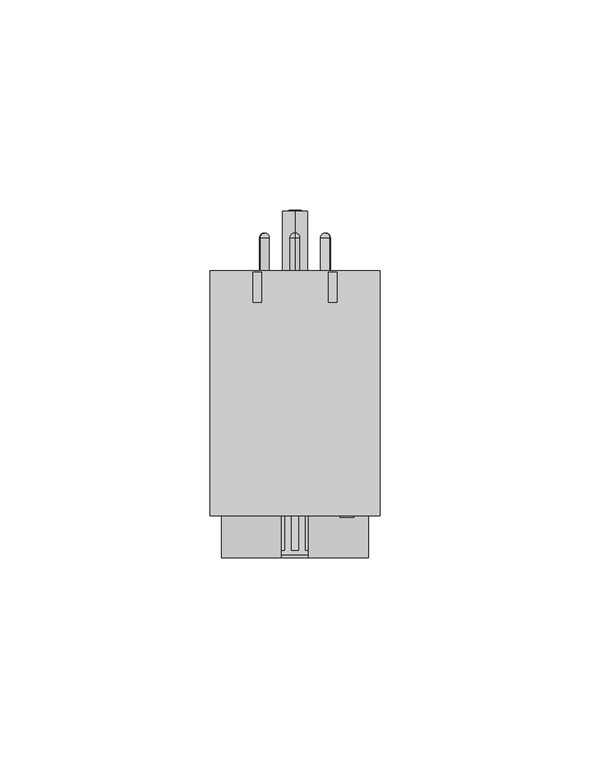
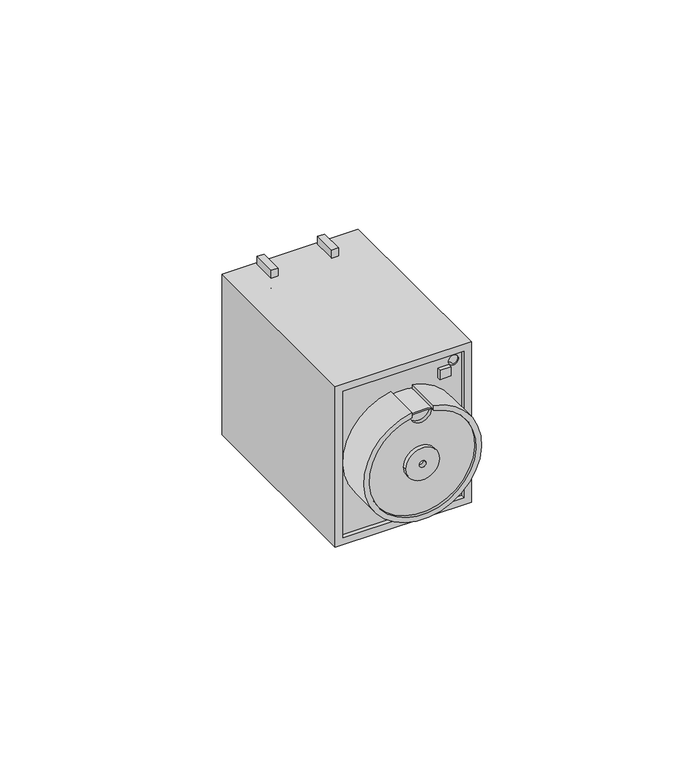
"""IFC4 building model written with IfcOpenShell, lengths in millimetres: proxy geometry, TDM_РЕЛЕ ВРЕМЕНИ ЦОКОЛЬНЫЙ СЕРИИ РВ1-РВ2-РВ3 : РВ2D-10 сек/60 мин -5 А-220 В-8Ц."""

from ifc_helpers import new_model, si_unit, point, frame, frame_2d, origin, origin_2d, place, context, project, spatial, polyline, circle_curve, ellipse_curve, trimmed, segment, composite_curve, outline, extrude, source, transform, mapped, element, save
from ifc_brep_helpers import plane_surface, cylinder_surface, revolved_surface, advanced_brep


def electrical_equipment_3ce51de6(model_context):
    return source(origin(), model_context, "Body", "SolidModel", [
        advanced_brep(
        [(18.0, -28.0, 23.0), (-18.0, -28.0, 23.0), (-18.0, -28.0, -23.0), (18.0, -28.0, -23.0), (17.1390456, -28.0, 20.3251327), (14.1390456, -28.0, 20.3251327), (17.1390456, -28.0, -20.3251327), (14.1390456, -28.0, -20.3251327), (18.0, 29.0, 23.0), (18.0, 29.0, -23.0), (-18.0, 29.0, -23.0), (-18.0, 29.0, 23.0), (17.1390456, 29.0, 20.3251327), (14.1390456, 29.0, 20.3251327), (17.1390456, 29.0, -20.3251327), (14.1390456, 29.0, -20.3251327), (-8.0, 21.501585, 23.0), (-10.0, 21.501585, 23.0), (-10.0, 28.7, 23.0), (-8.0, 28.7, 23.0), (10.0, 21.501585, 23.0), (8.0, 21.501585, 23.0), (8.0, 28.7, 23.0), (10.0, 28.7, 23.0), (-10.0, 21.501585, -23.0), (-8.0, 21.501585, -23.0), (-8.0, 28.7, -23.0), (-10.0, 28.7, -23.0), (8.0, 21.501585, -23.0), (10.0, 21.501585, -23.0), (10.0, 28.7, -23.0), (8.0, 28.7, -23.0), (-8.0, 21.501585, 27.5), (-10.0, 21.501585, 27.5), (10.0, 21.501585, 27.5), (8.0, 21.501585, 27.5), (-10.0, 21.501585, -27.5), (-8.0, 21.501585, -27.5), (8.0, 21.501585, -27.5), (10.0, 21.501585, -27.5), (-10.0, 28.7, 27.5), (-8.0, 28.7, 27.5), (8.0, 28.7, 27.5), (10.0, 28.7, 27.5), (-8.0, 28.7, -27.5), (-10.0, 28.7, -27.5), (10.0, 28.7, -27.5), (8.0, 28.7, -27.5)],
        [
            (0, 1),
            (1, 2),
            (2, 3),
            (3, 0),
            (4, 5, circle_curve(frame((15.6390456, -28.0, 20.3251327), z_axis=(0.0, 1.0, 0.0), x_axis=(-1.0, 0.0, 0.0)), 1.5)),
            (5, 4, circle_curve(frame((15.6390456, -28.0, 20.3251327), z_axis=(0.0, 1.0, 0.0), x_axis=(-1.0, 0.0, 0.0)), 1.5)),
            (6, 7, circle_curve(frame((15.6390456, -28.0, -20.3251327), z_axis=(0.0, 1.0, 0.0), x_axis=(-1.0, 0.0, 0.0)), 1.5)),
            (7, 6, circle_curve(frame((15.6390456, -28.0, -20.3251327), z_axis=(0.0, 1.0, 0.0), x_axis=(-1.0, 0.0, 0.0)), 1.5)),
            (8, 9),
            (9, 10),
            (10, 11),
            (11, 8),
            (12, 13, circle_curve(frame((15.6390456, 29.0, 20.3251327), z_axis=(0.0, -1.0, 0.0), x_axis=(-1.0, 0.0, 0.0)), 1.5)),
            (13, 12, circle_curve(frame((15.6390456, 29.0, 20.3251327), z_axis=(0.0, -1.0, 0.0), x_axis=(-1.0, 0.0, 0.0)), 1.5)),
            (14, 15, circle_curve(frame((15.6390456, 29.0, -20.3251327), z_axis=(0.0, -1.0, 0.0), x_axis=(-1.0, 0.0, 0.0)), 1.5)),
            (15, 14, circle_curve(frame((15.6390456, 29.0, -20.3251327), z_axis=(0.0, -1.0, 0.0), x_axis=(-1.0, 0.0, 0.0)), 1.5)),
            (0, 8),
            (11, 1),
            (16, 17),
            (17, 18),
            (18, 19),
            (19, 16),
            (20, 21),
            (21, 22),
            (22, 23),
            (23, 20),
            (10, 2),
            (9, 3),
            (24, 25),
            (25, 26),
            (26, 27),
            (27, 24),
            (28, 29),
            (29, 30),
            (30, 31),
            (31, 28),
            (4, 12),
            (13, 5),
            (6, 14),
            (15, 7),
            (16, 32),
            (32, 33),
            (33, 17),
            (20, 34),
            (34, 35),
            (35, 21),
            (24, 36),
            (36, 37),
            (37, 25),
            (28, 38),
            (38, 39),
            (39, 29),
            (18, 40),
            (40, 41),
            (41, 19),
            (22, 42),
            (42, 43),
            (43, 23),
            (26, 44),
            (44, 45),
            (45, 27),
            (30, 46),
            (46, 47),
            (47, 31),
            (41, 32),
            (40, 33),
            (43, 34),
            (42, 35),
            (45, 36),
            (44, 37),
            (47, 38),
            (46, 39),
        ],
        [
            plane_surface(frame((-18.0, -28.0, 23.0), z_axis=(0.0, -1.0, 0.0), x_axis=(-1.0, 0.0, 0.0))),
            plane_surface(frame((-18.0, 29.0, 23.0), z_axis=(0.0, 1.0, 0.0), x_axis=(1.0, 0.0, 0.0))),
            plane_surface(frame((18.0, -28.0, 23.0), z_axis=(0.0, 0.0, 1.0), x_axis=(0.0, 1.0, 0.0))),
            plane_surface(frame((-18.0, -28.0, 23.0), z_axis=(-1.0, 0.0, 0.0), x_axis=(0.0, 1.0, 0.0))),
            plane_surface(frame((-18.0, -28.0, -23.0), z_axis=(0.0, 0.0, -1.0), x_axis=(0.0, 1.0, 0.0))),
            plane_surface(frame((18.0, -28.0, -23.0), z_axis=(1.0, 0.0, 0.0), x_axis=(0.0, 1.0, 0.0))),
            revolved_surface(polyline([(14.1390456, 29.0, 20.3251327), (14.1390456, -28.0, 20.3251327)]), (15.6390456, 0.0, 20.3251327), (0.0, 1.0, 0.0)),
            revolved_surface(polyline([(14.1390456, 29.0, -20.3251327), (14.1390456, -28.0, -20.3251327)]), (15.6390456, 0.0, -20.3251327), (0.0, 1.0, 0.0)),
            plane_surface(frame((-8.0, 21.501585, 22.9569592), z_axis=(0.0, -1.0, 0.0), x_axis=(0.0, 0.0, 1.0))),
            plane_surface(frame((-8.0, 28.7, 22.9569592), z_axis=(0.0, 1.0, 0.0), x_axis=(0.0, 0.0, -1.0))),
            plane_surface(frame((-8.0, 21.501585, 22.9569592), z_axis=(1.0, 0.0, 0.0), x_axis=(0.0, 1.0, 0.0))),
            plane_surface(frame((-8.0, 21.501585, 27.5), z_axis=(0.0, 0.0, 1.0), x_axis=(0.0, 1.0, 0.0))),
            plane_surface(frame((-10.0, 21.501585, 27.5), z_axis=(-1.0, 0.0, 0.0), x_axis=(0.0, 1.0, 0.0))),
            plane_surface(frame((10.0, 21.501585, 22.9569592), z_axis=(1.0, 0.0, 0.0), x_axis=(0.0, 1.0, 0.0))),
            plane_surface(frame((10.0, 21.501585, 27.5), z_axis=(0.0, 0.0, 1.0), x_axis=(0.0, 1.0, 0.0))),
            plane_surface(frame((8.0, 21.501585, 27.5), z_axis=(-1.0, 0.0, 0.0), x_axis=(0.0, 1.0, 0.0))),
            plane_surface(frame((-10.0, 21.501585, -22.9569592), z_axis=(-1.0, 0.0, 0.0), x_axis=(0.0, 1.0, 0.0))),
            plane_surface(frame((-10.0, 21.501585, -27.5), z_axis=(0.0, 0.0, -1.0), x_axis=(0.0, 1.0, 0.0))),
            plane_surface(frame((-8.0, 21.501585, -27.5), z_axis=(1.0, 0.0, 0.0), x_axis=(0.0, 1.0, 0.0))),
            plane_surface(frame((8.0, 21.501585, -22.9569592), z_axis=(-1.0, 0.0, 0.0), x_axis=(0.0, 1.0, 0.0))),
            plane_surface(frame((8.0, 21.501585, -27.5), z_axis=(0.0, 0.0, -1.0), x_axis=(0.0, 1.0, 0.0))),
            plane_surface(frame((10.0, 21.501585, -27.5), z_axis=(1.0, 0.0, 0.0), x_axis=(0.0, 1.0, 0.0))),
        ],
        [
            (0, [[1, 2, 3, 4], [5, 6], [7, 8]]),
            (1, [[9, 10, 11, 12], [13, 14], [15, 16]]),
            (2, [[-1, 17, -12, 18], [19, 20, 21, 22], [23, 24, 25, 26]]),
            (3, [[-2, -18, -11, 27]]),
            (4, [[-3, -27, -10, 28], [29, 30, 31, 32], [33, 34, 35, 36]]),
            (5, [[-4, -28, -9, -17]]),
            (6, [[-5, 37, -14, 38]]),
            (6, [[-6, -38, -13, -37]]),
            (7, [[-7, 39, -16, 40]]),
            (7, [[-8, -40, -15, -39]]),
            (8, [[41, 42, 43, -19]]),
            (8, [[44, 45, 46, -23]]),
            (8, [[47, 48, 49, -29]]),
            (8, [[50, 51, 52, -33]]),
            (9, [[53, 54, 55, -21]]),
            (9, [[56, 57, 58, -25]]),
            (9, [[59, 60, 61, -31]]),
            (9, [[62, 63, 64, -35]]),
            (10, [[-41, -22, -55, 65]]),
            (11, [[-42, -65, -54, 66]]),
            (12, [[-43, -66, -53, -20]]),
            (13, [[-44, -26, -58, 67]]),
            (14, [[-45, -67, -57, 68]]),
            (15, [[-46, -68, -56, -24]]),
            (16, [[-47, -32, -61, 69]]),
            (17, [[-48, -69, -60, 70]]),
            (18, [[-49, -70, -59, -30]]),
            (19, [[-50, -36, -64, 71]]),
            (20, [[-51, -71, -63, 72]]),
            (21, [[-52, -72, -62, -34]]),
        ],
    ),
        extrude(outline(composite_curve([segment(trimmed(circle_curve(origin_2d(), 5.0), [point((0.0, 5.0))], [point((0.0, -5.0))], False, "CARTESIAN"), True, "CONTINUOUS"), segment(trimmed(circle_curve(origin_2d(), 5.0), [point((0.0, -5.0))], [point((0.0, 5.0))], False, "CARTESIAN"), True, "CONTINUOUS")], self_intersect=False), holes=[composite_curve([segment(trimmed(circle_curve(origin_2d(), 1.0), [point((0.0, 1.0))], [point((0.0, -1.0))], True, "CARTESIAN"), True, "CONTINUOUS"), segment(trimmed(circle_curve(origin_2d(), 1.0), [point((0.0, -1.0))], [point((0.0, 1.0))], True, "CARTESIAN"), True, "CONTINUOUS")], self_intersect=False)]), frame((0.0, -39.3, 0.0), z_axis=(0.0, 1.0, 0.0), x_axis=(0.0, 0.0, 1.0)), (0.0, 0.0, 1.0), 10.8),
        extrude(outline(composite_curve([segment(trimmed(circle_curve(origin_2d(), 1.0), [point((0.0, -1.0))], [point((0.0, 1.0))], False, "CARTESIAN"), True, "CONTINUOUS"), segment(trimmed(circle_curve(origin_2d(), 1.0), [point((0.0, 1.0))], [point((0.0, -1.0))], False, "CARTESIAN"), True, "CONTINUOUS")], self_intersect=False)), frame((0.0, -38.3626589, 0.0), z_axis=(0.0, 1.0, 0.0), x_axis=(0.0, 0.0, 1.0)), (0.0, 0.0, 1.0), 10.3626589),
        extrude(outline(composite_curve([segment(trimmed(circle_curve(frame_2d((15.6656964, 0.0)), 3.2536067), [point((15.6656964, 3.2536067))], [point((15.6656964, -3.2536067))], True, "CARTESIAN"), True, "CONTINUOUS"), segment(trimmed(circle_curve(origin_2d(), 16.0), [point((15.6656964, -3.2536067))], [point((15.6656964, 3.2536067))], False, "CARTESIAN"), True, "CONTINUOUS")], self_intersect=False), holes=[composite_curve([segment(trimmed(circle_curve(origin_2d(), 5.0), [point((0.0, -5.0))], [point((0.0, 5.0))], True, "CARTESIAN"), True, "CONTINUOUS"), segment(trimmed(circle_curve(origin_2d(), 5.0), [point((0.0, 5.0))], [point((0.0, -5.0))], True, "CARTESIAN"), True, "CONTINUOUS")], self_intersect=False)]), frame((0.0, -38.3626589, 0.0), z_axis=(0.0, 1.0, 0.0), x_axis=(0.0, 0.0, 1.0)), (0.0, 0.0, 1.0), 10.3626589),
        advanced_brep(
        [(6.2627831, 36.9318195, 3.6158195), (8.2791554, 36.9318195, 4.7799726), (7.2709693, 38.0410993, 4.1978961), (6.2627831, 29.0, 3.6158195), (8.2791554, 29.0, 4.7799726), (7.2709693, 29.0, 4.1978961)],
        [
            (0, 1, circle_curve(frame((7.2709693, 36.9318195, 4.1978961), z_axis=(0.0, 1.0, 0.0), x_axis=(0.8660254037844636, 0.0, 0.49999999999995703)), 1.1641531)),
            (1, 2, circle_curve(frame((7.3173709, 36.9318195, 4.2246861), z_axis=(-0.49999999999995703, 0.0, 0.8660254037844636), x_axis=(0.0, -1.0, 0.0)), 1.1105731)),
            (2, 0, circle_curve(frame((7.2245676, 36.9318195, 4.171106), z_axis=(-0.49999999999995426, 0.0, 0.8660254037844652), x_axis=(0.0, -1.0, 0.0)), 1.1105731)),
            (1, 0, circle_curve(frame((7.2709693, 36.9318195, 4.1978961), z_axis=(0.0, 1.0, 0.0), x_axis=(0.8660254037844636, 0.0, 0.49999999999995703)), 1.1641531)),
            (3, 4, circle_curve(frame((7.2709693, 29.0, 4.1978961), z_axis=(0.0, 1.0, 0.0), x_axis=(0.8660254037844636, 0.0, 0.49999999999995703)), 1.1641531)),
            (4, 1),
            (0, 3),
            (4, 3, circle_curve(frame((7.2709693, 29.0, 4.1978961), z_axis=(0.0, 1.0, 0.0), x_axis=(0.8660254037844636, 0.0, 0.49999999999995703)), 1.1641531)),
            (5, 4),
            (3, 5),
        ],
        [
            revolved_surface(trimmed(ellipse_curve(frame((7.3173709, 36.9318195, 4.2246861), z_axis=(0.49999999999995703, 0.0, -0.8660254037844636), x_axis=(0.0, -1.0, 0.0)), 1.1105731, 1.1105731), [point((7.2709693, 38.0410993, 4.1978961))], [point((8.2791554, 36.9318195, 4.7799726))], True, "CARTESIAN"), (7.2709693, 36.0076957, 4.1978961), (0.0, -1.0, 0.0)),
            cylinder_surface(frame((7.2709693, 36.0076957, 4.1978961), z_axis=(0.0, -1.0, 0.0), x_axis=(0.8660254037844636, 0.0, 0.49999999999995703)), 1.1641531),
            plane_surface(frame((7.2709693, 29.0, 4.1978961), z_axis=(0.0, -1.0000000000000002, 0.0), x_axis=(0.8660254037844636, 0.0, 0.49999999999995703))),
        ],
        [
            (0, [[1, 2, 3]]),
            (0, [[4, -3, -2]]),
            (1, [[5, 6, -1, 7]]),
            (1, [[8, -7, -4, -6]]),
            (2, [[9, -5, 10]]),
            (2, [[-10, -8, -9]]),
        ],
    ),
        advanced_brep(
        [(6.2627831, 36.9318195, -3.6158195), (8.2791554, 36.9318195, -4.7799726), (7.2709693, 38.0410993, -4.1978961), (6.2627831, 29.0, -3.6158195), (8.2791554, 29.0, -4.7799726), (7.2709693, 29.0, -4.1978961)],
        [
            (0, 1, circle_curve(frame((7.2709693, 36.9318195, -4.1978961), z_axis=(0.0, 1.0, 0.0), x_axis=(0.8660254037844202, 0.0, -0.5000000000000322)), 1.1641531)),
            (1, 2, circle_curve(frame((7.3173709, 36.9318195, -4.2246861), z_axis=(0.5000000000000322, 0.0, 0.8660254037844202), x_axis=(0.0, -1.0, 0.0)), 1.1105731)),
            (2, 0, circle_curve(frame((7.2245676, 36.9318195, -4.171106), z_axis=(0.500000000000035, 0.0, 0.8660254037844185), x_axis=(0.0, -1.0, 0.0)), 1.1105731)),
            (1, 0, circle_curve(frame((7.2709693, 36.9318195, -4.1978961), z_axis=(0.0, 1.0, 0.0), x_axis=(0.8660254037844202, 0.0, -0.5000000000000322)), 1.1641531)),
            (3, 4, circle_curve(frame((7.2709693, 29.0, -4.1978961), z_axis=(0.0, 1.0, 0.0), x_axis=(0.8660254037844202, 0.0, -0.5000000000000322)), 1.1641531)),
            (4, 1),
            (0, 3),
            (4, 3, circle_curve(frame((7.2709693, 29.0, -4.1978961), z_axis=(0.0, 1.0, 0.0), x_axis=(0.8660254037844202, 0.0, -0.5000000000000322)), 1.1641531)),
            (5, 4),
            (3, 5),
        ],
        [
            revolved_surface(trimmed(ellipse_curve(frame((7.3173709, 36.9318195, -4.2246861), z_axis=(-0.5000000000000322, 0.0, -0.8660254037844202), x_axis=(0.0, -1.0, 0.0)), 1.1105731, 1.1105731), [point((7.2709693, 38.0410993, -4.1978961))], [point((8.2791554, 36.9318195, -4.7799726))], True, "CARTESIAN"), (7.2709693, 36.0076957, -4.1978961), (0.0, -1.0, 0.0)),
            cylinder_surface(frame((7.2709693, 36.0076957, -4.1978961), z_axis=(0.0, -1.0, 0.0), x_axis=(0.8660254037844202, 0.0, -0.5000000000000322)), 1.1641531),
            plane_surface(frame((7.2709693, 29.0, -4.1978961), z_axis=(0.0, -1.0000000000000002, 0.0), x_axis=(0.8660254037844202, 0.0, -0.5000000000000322))),
        ],
        [
            (0, [[1, 2, 3]]),
            (0, [[4, -3, -2]]),
            (1, [[5, 6, -1, 7]]),
            (1, [[8, -7, -4, -6]]),
            (2, [[9, -5, 10]]),
            (2, [[-10, -8, -9]]),
        ],
    ),
        advanced_brep(
        [(0.0, 36.9318195, -7.231639), (0.0, 36.9318195, -9.5599453), (0.0, 38.0410993, -8.3957921), (0.0, 29.0, -7.231639), (0.0, 29.0, -9.5599453), (0.0, 29.0, -8.3957921)],
        [
            (0, 1, circle_curve(frame((0.0, 36.9318195, -8.3957921), z_axis=(0.0, 1.0, 0.0), x_axis=(0.0, 0.0, -1.0)), 1.1641531)),
            (1, 2, circle_curve(frame((0.0, 36.9318195, -8.4493722), z_axis=(1.0, 0.0, 0.0), x_axis=(0.0, -1.0, 0.0)), 1.1105731)),
            (2, 0, circle_curve(frame((0.0, 36.9318195, -8.3422121), z_axis=(1.0, 0.0, 0.0), x_axis=(0.0, -1.0, 0.0)), 1.1105731)),
            (1, 0, circle_curve(frame((0.0, 36.9318195, -8.3957921), z_axis=(0.0, 1.0, 0.0), x_axis=(0.0, 0.0, -1.0)), 1.1641531)),
            (3, 4, circle_curve(frame((0.0, 29.0, -8.3957921), z_axis=(0.0, 1.0, 0.0), x_axis=(0.0, 0.0, -1.0)), 1.1641531)),
            (4, 1),
            (0, 3),
            (4, 3, circle_curve(frame((0.0, 29.0, -8.3957921), z_axis=(0.0, 1.0, 0.0), x_axis=(0.0, 0.0, -1.0)), 1.1641531)),
            (5, 4),
            (3, 5),
        ],
        [
            revolved_surface(trimmed(ellipse_curve(frame((0.0, 36.9318195, -8.4493722), z_axis=(-1.0, 0.0, 0.0), x_axis=(0.0, -1.0, 0.0)), 1.1105731, 1.1105731), [point((0.0, 38.0410993, -8.3957921))], [point((0.0, 36.9318195, -9.5599453))], True, "CARTESIAN"), (0.0, 36.0076957, -8.3957921), (0.0, -1.0, 0.0)),
            cylinder_surface(frame((0.0, 36.0076957, -8.3957921), z_axis=(0.0, -1.0, 0.0), x_axis=(0.0, 0.0, -1.0)), 1.1641531),
            plane_surface(frame((0.0, 29.0, -8.3957921), z_axis=(0.0, -1.0, 0.0), x_axis=(0.0, 0.0, -1.0))),
        ],
        [
            (0, [[1, 2, 3]]),
            (0, [[4, -3, -2]]),
            (1, [[5, 6, -1, 7]]),
            (1, [[8, -7, -4, -6]]),
            (2, [[9, -5, 10]]),
            (2, [[-10, -8, -9]]),
        ],
    ),
        advanced_brep(
        [(-6.2627831, 36.9318195, -3.6158195), (-8.2791554, 36.9318195, -4.7799726), (-7.2709693, 38.0410993, -4.1978961), (-6.2627831, 29.0, -3.6158195), (-8.2791554, 29.0, -4.7799726), (-7.2709693, 29.0, -4.1978961)],
        [
            (0, 1, circle_curve(frame((-7.2709693, 36.9318195, -4.1978961), z_axis=(0.0, 1.0, 0.0), x_axis=(-0.8660254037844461, 0.0, -0.4999999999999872)), 1.1641531)),
            (1, 2, circle_curve(frame((-7.3173709, 36.9318195, -4.2246861), z_axis=(0.4999999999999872, 0.0, -0.8660254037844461), x_axis=(0.0, -1.0, 0.0)), 1.1105731)),
            (2, 0, circle_curve(frame((-7.2245676, 36.9318195, -4.171106), z_axis=(0.4999999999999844, 0.0, -0.8660254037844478), x_axis=(0.0, -1.0, 0.0)), 1.1105731)),
            (1, 0, circle_curve(frame((-7.2709693, 36.9318195, -4.1978961), z_axis=(0.0, 1.0, 0.0), x_axis=(-0.8660254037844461, 0.0, -0.4999999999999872)), 1.1641531)),
            (3, 4, circle_curve(frame((-7.2709693, 29.0, -4.1978961), z_axis=(0.0, 1.0, 0.0), x_axis=(-0.8660254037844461, 0.0, -0.4999999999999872)), 1.1641531)),
            (4, 1),
            (0, 3),
            (4, 3, circle_curve(frame((-7.2709693, 29.0, -4.1978961), z_axis=(0.0, 1.0, 0.0), x_axis=(-0.8660254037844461, 0.0, -0.4999999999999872)), 1.1641531)),
            (5, 4),
            (3, 5),
        ],
        [
            revolved_surface(trimmed(ellipse_curve(frame((-7.3173709, 36.9318195, -4.2246861), z_axis=(-0.4999999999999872, 0.0, 0.8660254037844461), x_axis=(0.0, -1.0, 0.0)), 1.1105731, 1.1105731), [point((-7.2709693, 38.0410993, -4.1978961))], [point((-8.2791554, 36.9318195, -4.7799726))], True, "CARTESIAN"), (-7.2709693, 36.0076957, -4.1978961), (0.0, -1.0, 0.0)),
            cylinder_surface(frame((-7.2709693, 36.0076957, -4.1978961), z_axis=(0.0, -1.0, 0.0), x_axis=(-0.8660254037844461, 0.0, -0.4999999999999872)), 1.1641531),
            plane_surface(frame((-7.2709693, 29.0, -4.1978961), z_axis=(0.0, -1.0000000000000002, 0.0), x_axis=(-0.8660254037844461, 0.0, -0.4999999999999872))),
        ],
        [
            (0, [[1, 2, 3]]),
            (0, [[4, -3, -2]]),
            (1, [[5, 6, -1, 7]]),
            (1, [[8, -7, -4, -6]]),
            (2, [[9, -5, 10]]),
            (2, [[-10, -8, -9]]),
        ],
    ),
        advanced_brep(
        [(-6.2627831, 36.9318195, 3.6158195), (-8.2791554, 36.9318195, 4.7799726), (-7.2709693, 38.0410993, 4.1978961), (-6.2627831, 29.0, 3.6158195), (-8.2791554, 29.0, 4.7799726), (-7.2709693, 29.0, 4.1978961)],
        [
            (0, 1, circle_curve(frame((-7.2709693, 36.9318195, 4.1978961), z_axis=(0.0, 1.0, 0.0), x_axis=(-0.8660254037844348, 0.0, 0.5000000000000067)), 1.1641531)),
            (1, 2, circle_curve(frame((-7.3173709, 36.9318195, 4.2246861), z_axis=(-0.5000000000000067, 0.0, -0.8660254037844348), x_axis=(0.0, -1.0, 0.0)), 1.1105731)),
            (2, 0, circle_curve(frame((-7.2245676, 36.9318195, 4.171106), z_axis=(-0.5000000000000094, 0.0, -0.8660254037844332), x_axis=(0.0, -1.0, 0.0)), 1.1105731)),
            (1, 0, circle_curve(frame((-7.2709693, 36.9318195, 4.1978961), z_axis=(0.0, 1.0, 0.0), x_axis=(-0.8660254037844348, 0.0, 0.5000000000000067)), 1.1641531)),
            (3, 4, circle_curve(frame((-7.2709693, 29.0, 4.1978961), z_axis=(0.0, 1.0, 0.0), x_axis=(-0.8660254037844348, 0.0, 0.5000000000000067)), 1.1641531)),
            (4, 1),
            (0, 3),
            (4, 3, circle_curve(frame((-7.2709693, 29.0, 4.1978961), z_axis=(0.0, 1.0, 0.0), x_axis=(-0.8660254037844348, 0.0, 0.5000000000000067)), 1.1641531)),
            (5, 4),
            (3, 5),
        ],
        [
            revolved_surface(trimmed(ellipse_curve(frame((-7.3173709, 36.9318195, 4.2246861), z_axis=(0.5000000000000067, 0.0, 0.8660254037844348), x_axis=(0.0, -1.0, 0.0)), 1.1105731, 1.1105731), [point((-7.2709693, 38.0410993, 4.1978961))], [point((-8.2791554, 36.9318195, 4.7799726))], True, "CARTESIAN"), (-7.2709693, 36.0076957, 4.1978961), (0.0, -1.0, 0.0)),
            cylinder_surface(frame((-7.2709693, 36.0076957, 4.1978961), z_axis=(0.0, -1.0, 0.0), x_axis=(-0.8660254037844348, 0.0, 0.5000000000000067)), 1.1641531),
            plane_surface(frame((-7.2709693, 29.0, 4.1978961), z_axis=(0.0, -1.0, 0.0), x_axis=(-0.8660254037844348, 0.0, 0.5000000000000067))),
        ],
        [
            (0, [[1, 2, 3]]),
            (0, [[4, -3, -2]]),
            (1, [[5, 6, -1, 7]]),
            (1, [[8, -7, -4, -6]]),
            (2, [[9, -5, 10]]),
            (2, [[-10, -8, -9]]),
        ],
    ),
        advanced_brep(
        [(0.0, 36.9318195, 7.231639), (0.0, 36.9318195, 9.5599453), (0.0, 38.0410993, 8.3957921), (0.0, 29.0, 7.231639), (0.0, 29.0, 9.5599453), (0.0, 29.0, 8.3957921)],
        [
            (0, 1, circle_curve(frame((0.0, 36.9318195, 8.3957921), z_axis=(0.0, 1.0, 0.0), x_axis=(0.0, 0.0, 1.0)), 1.1641531)),
            (1, 2, circle_curve(frame((0.0, 36.9318195, 8.4493722), z_axis=(-1.0, 0.0, 0.0), x_axis=(0.0, -1.0, 0.0)), 1.1105731)),
            (2, 0, circle_curve(frame((0.0, 36.9318195, 8.3422121), z_axis=(-1.0, 0.0, 0.0), x_axis=(0.0, -1.0, 0.0)), 1.1105731)),
            (1, 0, circle_curve(frame((0.0, 36.9318195, 8.3957921), z_axis=(0.0, 1.0, 0.0), x_axis=(0.0, 0.0, 1.0)), 1.1641531)),
            (3, 4, circle_curve(frame((0.0, 29.0, 8.3957921), z_axis=(0.0, 1.0, 0.0), x_axis=(0.0, 0.0, 1.0)), 1.1641531)),
            (4, 1),
            (0, 3),
            (4, 3, circle_curve(frame((0.0, 29.0, 8.3957921), z_axis=(0.0, 1.0, 0.0), x_axis=(0.0, 0.0, 1.0)), 1.1641531)),
            (5, 4),
            (3, 5),
        ],
        [
            revolved_surface(trimmed(ellipse_curve(frame((0.0, 36.9318195, 8.4493722), z_axis=(1.0, 0.0, 0.0), x_axis=(0.0, -1.0, 0.0)), 1.1105731, 1.1105731), [point((0.0, 38.0410993, 8.3957921))], [point((0.0, 36.9318195, 9.5599453))], True, "CARTESIAN"), (0.0, 36.0076957, 8.3957921), (0.0, -1.0, 0.0)),
            cylinder_surface(frame((0.0, 36.0076957, 8.3957921), z_axis=(0.0, -1.0, 0.0), x_axis=(0.0, 0.0, 1.0)), 1.1641531),
            plane_surface(frame((0.0, 29.0, 8.3957921), z_axis=(0.0, -1.0, 0.0), x_axis=(0.0, 0.0, 1.0))),
        ],
        [
            (0, [[1, 2, 3]]),
            (0, [[4, -3, -2]]),
            (1, [[5, 6, -1, 7]]),
            (1, [[8, -7, -4, -6]]),
            (2, [[9, -5, 10]]),
            (2, [[-10, -8, -9]]),
        ],
    ),
        advanced_brep(
        [(0.0, 43.2, -3.0), (0.0, 43.2, 3.0), (0.0, 43.2, 0.0), (0.0, 29.0, -3.0), (0.0, 29.0, 3.0), (0.0, 29.0, 0.0)],
        [
            (0, 1, circle_curve(frame((0.0, 43.2, 0.0), z_axis=(0.0, 1.0, 0.0), x_axis=(0.0, 0.0, 1.0)), 3.0)),
            (1, 2),
            (2, 0),
            (1, 0, circle_curve(frame((0.0, 43.2, 0.0), z_axis=(0.0, 1.0, 0.0), x_axis=(0.0, 0.0, 1.0)), 3.0)),
            (3, 4, circle_curve(frame((0.0, 29.0, 0.0), z_axis=(0.0, 1.0, 0.0), x_axis=(0.0, 0.0, 1.0)), 3.0)),
            (4, 1),
            (0, 3),
            (4, 3, circle_curve(frame((0.0, 29.0, 0.0), z_axis=(0.0, 1.0, 0.0), x_axis=(0.0, 0.0, 1.0)), 3.0)),
            (5, 4),
            (3, 5),
        ],
        [
            plane_surface(frame((0.0, 43.2, 0.0), z_axis=(0.0, 1.0, 0.0), x_axis=(0.0, 0.0, 1.0))),
            cylinder_surface(frame((0.0, 38.2709729, 0.0), z_axis=(0.0, -1.0, 0.0), x_axis=(0.0, 0.0, 1.0)), 3.0),
            plane_surface(frame((0.0, 29.0, 0.0), z_axis=(0.0, -1.0, 0.0), x_axis=(0.0, 0.0, 1.0))),
        ],
        [
            (0, [[1, 2, 3]]),
            (0, [[4, -3, -2]]),
            (1, [[5, 6, -1, 7]]),
            (1, [[8, -7, -4, -6]]),
            (2, [[9, -5, 10]]),
            (2, [[-10, -8, -9]]),
        ],
    ),
        advanced_brep(
        [(3.2536067, -39.3, 17.1948842), (3.2536067, -39.3, 15.6656964), (-3.2367453, -39.3, 15.6691889), (-3.2536067, -39.3, 17.1948842), (3.2536067, -28.0, 17.1948842), (-3.2536067, -28.0, 17.1948842), (-3.2536067, -28.0, 15.6656964), (3.2536067, -28.0, 15.6656964)],
        [
            (0, 1),
            (1, 2, circle_curve(frame((0.0, -39.3, 0.0), z_axis=(0.0, 1.0, 0.0), x_axis=(1.0, 0.0, 0.0)), 16.0)),
            (2, 3),
            (3, 0, circle_curve(frame((0.0, -39.3, 0.0), z_axis=(0.0, -1.0, 0.0), x_axis=(1.0, 0.0, 0.0)), 17.5)),
            (4, 5, circle_curve(frame((0.0, -28.0, 0.0), z_axis=(0.0, 1.0, 0.0), x_axis=(1.0, 0.0, 0.0)), 17.5)),
            (5, 6),
            (6, 7, circle_curve(frame((0.0, -28.0, 0.0), z_axis=(0.0, -1.0, 0.0), x_axis=(1.0, 0.0, 0.0)), 16.0)),
            (7, 4),
            (3, 5),
            (4, 0),
            (1, 7),
            (6, 2),
        ],
        [
            plane_surface(frame((3.2536067, -39.3, 16.0), z_axis=(0.0, -1.0, 0.0), x_axis=(0.0, 0.0, -1.0))),
            plane_surface(frame((3.2536067, -28.0, 16.0), z_axis=(0.0, 1.0, 0.0), x_axis=(0.0, 0.0, 1.0))),
            cylinder_surface(frame((0.0, -28.0, 0.0), z_axis=(0.0, -1.0, 0.0), x_axis=(1.0, 0.0, 0.0)), 17.5),
            revolved_surface(polyline([(16.0, -28.0, 0.0), (16.0, -39.3, 0.0)]), (0.0, -28.0, 0.0), (0.0, 1.0, 0.0)),
            plane_surface(frame((3.2536067, -39.3, 17.1948842), z_axis=(-1.0, 0.0, 0.0), x_axis=(0.0, 1.0, 0.0))),
            plane_surface(frame((-3.2536067, -39.3, 15.6656964), z_axis=(1.0, 0.0, 0.0), x_axis=(0.0, 1.0, 0.0))),
        ],
        [
            (0, [[1, 2, 3, 4]]),
            (1, [[5, 6, 7, 8]]),
            (2, [[-4, 9, -5, 10]]),
            (3, [[-2, 11, -7, 12]]),
            (4, [[-1, -10, -8, -11]]),
            (5, [[-3, -12, -6, -9]]),
        ],
    ),
        extrude(outline(polyline([(25.25, 20.25), (25.25, -20.25), (-25.25, -20.25), (-25.25, 20.25), (25.25, 20.25)]), holes=[polyline([(-23.0, 18.0), (-23.0, -18.0), (23.0, -18.0), (23.0, 18.0), (-23.0, 18.0)])]), frame((0.0, -29.3, 0.0), z_axis=(0.0, 1.0, 0.0), x_axis=(0.0, 0.0, 1.0)), (0.0, 0.0, 1.0), 58.3),
        extrude(outline(polyline([(18.0, 28.173155), (18.0, -26.826845), (-18.0, -26.826845), (-18.0, 28.173155), (18.0, 28.173155)])), frame((0.0, 0.0, -22.8185394), z_axis=(0.0, 0.0, 1.0), x_axis=(1.0, 0.0, 0.0)), (0.0, 0.0, 1.0), 45.7754987),
        extrude(outline(polyline([(14.0499932, -21.826845), (14.0499932, -29.5915573), (10.764557, -29.5915573), (10.764557, -21.826845), (14.0499932, -21.826845)])), frame((0.0, 0.0, 16.8173229), z_axis=(0.0, 0.0, 1.0), x_axis=(1.0, 0.0, 0.0)), (0.0, 0.0, 1.0), 2.8847732),
        extrude(outline(composite_curve([segment(trimmed(circle_curve(origin_2d(), 5.0), [point((0.0, 5.0))], [point((0.0, -5.0))], False, "CARTESIAN"), True, "CONTINUOUS"), segment(trimmed(circle_curve(origin_2d(), 5.0), [point((0.0, -5.0))], [point((0.0, 5.0))], False, "CARTESIAN"), True, "CONTINUOUS")], self_intersect=False), holes=[composite_curve([segment(trimmed(circle_curve(origin_2d(), 1.0), [point((0.0, 1.0))], [point((0.0, -1.0))], True, "CARTESIAN"), True, "CONTINUOUS"), segment(trimmed(circle_curve(origin_2d(), 1.0), [point((0.0, -1.0))], [point((0.0, 1.0))], True, "CARTESIAN"), True, "CONTINUOUS")], self_intersect=False)]), frame((0.0, -38.5, 0.0), z_axis=(0.0, 1.0, 0.0), x_axis=(0.0, 0.0, 1.0)), (0.0, 0.0, 1.0), 10.0),
        extrude(outline(composite_curve([segment(trimmed(circle_curve(origin_2d(), 16.0), [point((0.0, -16.0))], [point((0.0, 16.0))], False, "CARTESIAN"), True, "CONTINUOUS"), segment(trimmed(circle_curve(origin_2d(), 16.0), [point((0.0, 16.0))], [point((0.0, -16.0))], False, "CARTESIAN"), True, "CONTINUOUS")], self_intersect=False), holes=[composite_curve([segment(trimmed(circle_curve(origin_2d(), 5.0), [point((0.0, -5.0))], [point((0.0, 5.0))], True, "CARTESIAN"), True, "CONTINUOUS"), segment(trimmed(circle_curve(origin_2d(), 5.0), [point((0.0, 5.0))], [point((0.0, -5.0))], True, "CARTESIAN"), True, "CONTINUOUS")], self_intersect=False)]), frame((0.0, -37.5, 0.0), z_axis=(0.0, 1.0, 0.0), x_axis=(0.0, 0.0, 1.0)), (0.0, 0.0, 1.0), 9.5),
        extrude(outline(composite_curve([segment(trimmed(circle_curve(origin_2d(), 1.0), [point((0.0, -1.0))], [point((0.0, 1.0))], False, "CARTESIAN"), True, "CONTINUOUS"), segment(trimmed(circle_curve(origin_2d(), 1.0), [point((0.0, 1.0))], [point((0.0, -1.0))], False, "CARTESIAN"), True, "CONTINUOUS")], self_intersect=False)), frame((0.0, -37.5, 0.0), z_axis=(0.0, 1.0, 0.0), x_axis=(0.0, 0.0, 1.0)), (0.0, 0.0, 1.0), 9.5),
        advanced_brep(
        [(6.2627831, 36.9318195, 3.6158195), (8.2791554, 36.9318195, 4.7799726), (7.2709693, 38.0410993, 4.1978961), (6.2627831, 29.0, 3.6158195), (8.2791554, 29.0, 4.7799726), (7.2709693, 29.0, 4.1978961)],
        [
            (0, 1, circle_curve(frame((7.2709693, 36.9318195, 4.1978961), z_axis=(0.0, 1.0, 0.0), x_axis=(0.8660254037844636, 0.0, 0.49999999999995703)), 1.1641531)),
            (1, 2, circle_curve(frame((7.3173709, 36.9318195, 4.2246861), z_axis=(-0.49999999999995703, 0.0, 0.8660254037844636), x_axis=(0.0, -1.0, 0.0)), 1.1105731)),
            (2, 0, circle_curve(frame((7.2245676, 36.9318195, 4.171106), z_axis=(-0.49999999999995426, 0.0, 0.8660254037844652), x_axis=(0.0, -1.0, 0.0)), 1.1105731)),
            (1, 0, circle_curve(frame((7.2709693, 36.9318195, 4.1978961), z_axis=(0.0, 1.0, 0.0), x_axis=(0.8660254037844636, 0.0, 0.49999999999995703)), 1.1641531)),
            (3, 4, circle_curve(frame((7.2709693, 29.0, 4.1978961), z_axis=(0.0, 1.0, 0.0), x_axis=(0.8660254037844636, 0.0, 0.49999999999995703)), 1.1641531)),
            (4, 1),
            (0, 3),
            (4, 3, circle_curve(frame((7.2709693, 29.0, 4.1978961), z_axis=(0.0, 1.0, 0.0), x_axis=(0.8660254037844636, 0.0, 0.49999999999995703)), 1.1641531)),
            (5, 4),
            (3, 5),
        ],
        [
            revolved_surface(trimmed(ellipse_curve(frame((7.3173709, 36.9318195, 4.2246861), z_axis=(0.49999999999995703, 0.0, -0.8660254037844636), x_axis=(0.0, -1.0, 0.0)), 1.1105731, 1.1105731), [point((7.2709693, 38.0410993, 4.1978961))], [point((8.2791554, 36.9318195, 4.7799726))], True, "CARTESIAN"), (7.2709693, 36.0076957, 4.1978961), (0.0, -1.0, 0.0)),
            cylinder_surface(frame((7.2709693, 36.0076957, 4.1978961), z_axis=(0.0, -1.0, 0.0), x_axis=(0.8660254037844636, 0.0, 0.49999999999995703)), 1.1641531),
            plane_surface(frame((7.2709693, 29.0, 4.1978961), z_axis=(0.0, -1.0000000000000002, 0.0), x_axis=(0.8660254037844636, 0.0, 0.49999999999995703))),
        ],
        [
            (0, [[1, 2, 3]]),
            (0, [[4, -3, -2]]),
            (1, [[5, 6, -1, 7]]),
            (1, [[8, -7, -4, -6]]),
            (2, [[9, -5, 10]]),
            (2, [[-10, -8, -9]]),
        ],
    ),
        advanced_brep(
        [(6.2627831, 36.9318195, -3.6158195), (8.2791554, 36.9318195, -4.7799726), (7.2709693, 38.0410993, -4.1978961), (6.2627831, 29.0, -3.6158195), (8.2791554, 29.0, -4.7799726), (7.2709693, 29.0, -4.1978961)],
        [
            (0, 1, circle_curve(frame((7.2709693, 36.9318195, -4.1978961), z_axis=(0.0, 1.0, 0.0), x_axis=(0.8660254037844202, 0.0, -0.5000000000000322)), 1.1641531)),
            (1, 2, circle_curve(frame((7.3173709, 36.9318195, -4.2246861), z_axis=(0.5000000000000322, 0.0, 0.8660254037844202), x_axis=(0.0, -1.0, 0.0)), 1.1105731)),
            (2, 0, circle_curve(frame((7.2245676, 36.9318195, -4.171106), z_axis=(0.500000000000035, 0.0, 0.8660254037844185), x_axis=(0.0, -1.0, 0.0)), 1.1105731)),
            (1, 0, circle_curve(frame((7.2709693, 36.9318195, -4.1978961), z_axis=(0.0, 1.0, 0.0), x_axis=(0.8660254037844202, 0.0, -0.5000000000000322)), 1.1641531)),
            (3, 4, circle_curve(frame((7.2709693, 29.0, -4.1978961), z_axis=(0.0, 1.0, 0.0), x_axis=(0.8660254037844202, 0.0, -0.5000000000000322)), 1.1641531)),
            (4, 1),
            (0, 3),
            (4, 3, circle_curve(frame((7.2709693, 29.0, -4.1978961), z_axis=(0.0, 1.0, 0.0), x_axis=(0.8660254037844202, 0.0, -0.5000000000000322)), 1.1641531)),
            (5, 4),
            (3, 5),
        ],
        [
            revolved_surface(trimmed(ellipse_curve(frame((7.3173709, 36.9318195, -4.2246861), z_axis=(-0.5000000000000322, 0.0, -0.8660254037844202), x_axis=(0.0, -1.0, 0.0)), 1.1105731, 1.1105731), [point((7.2709693, 38.0410993, -4.1978961))], [point((8.2791554, 36.9318195, -4.7799726))], True, "CARTESIAN"), (7.2709693, 36.0076957, -4.1978961), (0.0, -1.0, 0.0)),
            cylinder_surface(frame((7.2709693, 36.0076957, -4.1978961), z_axis=(0.0, -1.0, 0.0), x_axis=(0.8660254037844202, 0.0, -0.5000000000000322)), 1.1641531),
            plane_surface(frame((7.2709693, 29.0, -4.1978961), z_axis=(0.0, -1.0000000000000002, 0.0), x_axis=(0.8660254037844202, 0.0, -0.5000000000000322))),
        ],
        [
            (0, [[1, 2, 3]]),
            (0, [[4, -3, -2]]),
            (1, [[5, 6, -1, 7]]),
            (1, [[8, -7, -4, -6]]),
            (2, [[9, -5, 10]]),
            (2, [[-10, -8, -9]]),
        ],
    ),
        advanced_brep(
        [(0.0, 36.9318195, -7.231639), (0.0, 36.9318195, -9.5599453), (0.0, 38.0410993, -8.3957921), (0.0, 29.0, -7.231639), (0.0, 29.0, -9.5599453), (0.0, 29.0, -8.3957921)],
        [
            (0, 1, circle_curve(frame((0.0, 36.9318195, -8.3957921), z_axis=(0.0, 1.0, 0.0), x_axis=(0.0, 0.0, -1.0)), 1.1641531)),
            (1, 2, circle_curve(frame((0.0, 36.9318195, -8.4493722), z_axis=(1.0, 0.0, 0.0), x_axis=(0.0, -1.0, 0.0)), 1.1105731)),
            (2, 0, circle_curve(frame((0.0, 36.9318195, -8.3422121), z_axis=(1.0, 0.0, 0.0), x_axis=(0.0, -1.0, 0.0)), 1.1105731)),
            (1, 0, circle_curve(frame((0.0, 36.9318195, -8.3957921), z_axis=(0.0, 1.0, 0.0), x_axis=(0.0, 0.0, -1.0)), 1.1641531)),
            (3, 4, circle_curve(frame((0.0, 29.0, -8.3957921), z_axis=(0.0, 1.0, 0.0), x_axis=(0.0, 0.0, -1.0)), 1.1641531)),
            (4, 1),
            (0, 3),
            (4, 3, circle_curve(frame((0.0, 29.0, -8.3957921), z_axis=(0.0, 1.0, 0.0), x_axis=(0.0, 0.0, -1.0)), 1.1641531)),
            (5, 4),
            (3, 5),
        ],
        [
            revolved_surface(trimmed(ellipse_curve(frame((0.0, 36.9318195, -8.4493722), z_axis=(-1.0, 0.0, 0.0), x_axis=(0.0, -1.0, 0.0)), 1.1105731, 1.1105731), [point((0.0, 38.0410993, -8.3957921))], [point((0.0, 36.9318195, -9.5599453))], True, "CARTESIAN"), (0.0, 36.0076957, -8.3957921), (0.0, -1.0, 0.0)),
            cylinder_surface(frame((0.0, 36.0076957, -8.3957921), z_axis=(0.0, -1.0, 0.0), x_axis=(0.0, 0.0, -1.0)), 1.1641531),
            plane_surface(frame((0.0, 29.0, -8.3957921), z_axis=(0.0, -1.0, 0.0), x_axis=(0.0, 0.0, -1.0))),
        ],
        [
            (0, [[1, 2, 3]]),
            (0, [[4, -3, -2]]),
            (1, [[5, 6, -1, 7]]),
            (1, [[8, -7, -4, -6]]),
            (2, [[9, -5, 10]]),
            (2, [[-10, -8, -9]]),
        ],
    ),
        advanced_brep(
        [(-6.2627831, 36.9318195, -3.6158195), (-8.2791554, 36.9318195, -4.7799726), (-7.2709693, 38.0410993, -4.1978961), (-6.2627831, 29.0, -3.6158195), (-8.2791554, 29.0, -4.7799726), (-7.2709693, 29.0, -4.1978961)],
        [
            (0, 1, circle_curve(frame((-7.2709693, 36.9318195, -4.1978961), z_axis=(0.0, 1.0, 0.0), x_axis=(-0.8660254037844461, 0.0, -0.4999999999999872)), 1.1641531)),
            (1, 2, circle_curve(frame((-7.3173709, 36.9318195, -4.2246861), z_axis=(0.4999999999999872, 0.0, -0.8660254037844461), x_axis=(0.0, -1.0, 0.0)), 1.1105731)),
            (2, 0, circle_curve(frame((-7.2245676, 36.9318195, -4.171106), z_axis=(0.4999999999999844, 0.0, -0.8660254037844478), x_axis=(0.0, -1.0, 0.0)), 1.1105731)),
            (1, 0, circle_curve(frame((-7.2709693, 36.9318195, -4.1978961), z_axis=(0.0, 1.0, 0.0), x_axis=(-0.8660254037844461, 0.0, -0.4999999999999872)), 1.1641531)),
            (3, 4, circle_curve(frame((-7.2709693, 29.0, -4.1978961), z_axis=(0.0, 1.0, 0.0), x_axis=(-0.8660254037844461, 0.0, -0.4999999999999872)), 1.1641531)),
            (4, 1),
            (0, 3),
            (4, 3, circle_curve(frame((-7.2709693, 29.0, -4.1978961), z_axis=(0.0, 1.0, 0.0), x_axis=(-0.8660254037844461, 0.0, -0.4999999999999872)), 1.1641531)),
            (5, 4),
            (3, 5),
        ],
        [
            revolved_surface(trimmed(ellipse_curve(frame((-7.3173709, 36.9318195, -4.2246861), z_axis=(-0.4999999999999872, 0.0, 0.8660254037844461), x_axis=(0.0, -1.0, 0.0)), 1.1105731, 1.1105731), [point((-7.2709693, 38.0410993, -4.1978961))], [point((-8.2791554, 36.9318195, -4.7799726))], True, "CARTESIAN"), (-7.2709693, 36.0076957, -4.1978961), (0.0, -1.0, 0.0)),
            cylinder_surface(frame((-7.2709693, 36.0076957, -4.1978961), z_axis=(0.0, -1.0, 0.0), x_axis=(-0.8660254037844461, 0.0, -0.4999999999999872)), 1.1641531),
            plane_surface(frame((-7.2709693, 29.0, -4.1978961), z_axis=(0.0, -1.0000000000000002, 0.0), x_axis=(-0.8660254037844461, 0.0, -0.4999999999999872))),
        ],
        [
            (0, [[1, 2, 3]]),
            (0, [[4, -3, -2]]),
            (1, [[5, 6, -1, 7]]),
            (1, [[8, -7, -4, -6]]),
            (2, [[9, -5, 10]]),
            (2, [[-10, -8, -9]]),
        ],
    ),
        advanced_brep(
        [(-6.2627831, 36.9318195, 3.6158195), (-8.2791554, 36.9318195, 4.7799726), (-7.2709693, 38.0410993, 4.1978961), (-6.2627831, 29.0, 3.6158195), (-8.2791554, 29.0, 4.7799726), (-7.2709693, 29.0, 4.1978961)],
        [
            (0, 1, circle_curve(frame((-7.2709693, 36.9318195, 4.1978961), z_axis=(0.0, 1.0, 0.0), x_axis=(-0.8660254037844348, 0.0, 0.5000000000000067)), 1.1641531)),
            (1, 2, circle_curve(frame((-7.3173709, 36.9318195, 4.2246861), z_axis=(-0.5000000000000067, 0.0, -0.8660254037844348), x_axis=(0.0, -1.0, 0.0)), 1.1105731)),
            (2, 0, circle_curve(frame((-7.2245676, 36.9318195, 4.171106), z_axis=(-0.5000000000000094, 0.0, -0.8660254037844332), x_axis=(0.0, -1.0, 0.0)), 1.1105731)),
            (1, 0, circle_curve(frame((-7.2709693, 36.9318195, 4.1978961), z_axis=(0.0, 1.0, 0.0), x_axis=(-0.8660254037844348, 0.0, 0.5000000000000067)), 1.1641531)),
            (3, 4, circle_curve(frame((-7.2709693, 29.0, 4.1978961), z_axis=(0.0, 1.0, 0.0), x_axis=(-0.8660254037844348, 0.0, 0.5000000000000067)), 1.1641531)),
            (4, 1),
            (0, 3),
            (4, 3, circle_curve(frame((-7.2709693, 29.0, 4.1978961), z_axis=(0.0, 1.0, 0.0), x_axis=(-0.8660254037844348, 0.0, 0.5000000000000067)), 1.1641531)),
            (5, 4),
            (3, 5),
        ],
        [
            revolved_surface(trimmed(ellipse_curve(frame((-7.3173709, 36.9318195, 4.2246861), z_axis=(0.5000000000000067, 0.0, 0.8660254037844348), x_axis=(0.0, -1.0, 0.0)), 1.1105731, 1.1105731), [point((-7.2709693, 38.0410993, 4.1978961))], [point((-8.2791554, 36.9318195, 4.7799726))], True, "CARTESIAN"), (-7.2709693, 36.0076957, 4.1978961), (0.0, -1.0, 0.0)),
            cylinder_surface(frame((-7.2709693, 36.0076957, 4.1978961), z_axis=(0.0, -1.0, 0.0), x_axis=(-0.8660254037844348, 0.0, 0.5000000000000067)), 1.1641531),
            plane_surface(frame((-7.2709693, 29.0, 4.1978961), z_axis=(0.0, -1.0, 0.0), x_axis=(-0.8660254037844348, 0.0, 0.5000000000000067))),
        ],
        [
            (0, [[1, 2, 3]]),
            (0, [[4, -3, -2]]),
            (1, [[5, 6, -1, 7]]),
            (1, [[8, -7, -4, -6]]),
            (2, [[9, -5, 10]]),
            (2, [[-10, -8, -9]]),
        ],
    ),
        advanced_brep(
        [(0.0, 36.9318195, 7.231639), (0.0, 36.9318195, 9.5599453), (0.0, 38.0410993, 8.3957921), (0.0, 29.0, 7.231639), (0.0, 29.0, 9.5599453), (0.0, 29.0, 8.3957921)],
        [
            (0, 1, circle_curve(frame((0.0, 36.9318195, 8.3957921), z_axis=(0.0, 1.0, 0.0), x_axis=(0.0, 0.0, 1.0)), 1.1641531)),
            (1, 2, circle_curve(frame((0.0, 36.9318195, 8.4493722), z_axis=(-1.0, 0.0, 0.0), x_axis=(0.0, -1.0, 0.0)), 1.1105731)),
            (2, 0, circle_curve(frame((0.0, 36.9318195, 8.3422121), z_axis=(-1.0, 0.0, 0.0), x_axis=(0.0, -1.0, 0.0)), 1.1105731)),
            (1, 0, circle_curve(frame((0.0, 36.9318195, 8.3957921), z_axis=(0.0, 1.0, 0.0), x_axis=(0.0, 0.0, 1.0)), 1.1641531)),
            (3, 4, circle_curve(frame((0.0, 29.0, 8.3957921), z_axis=(0.0, 1.0, 0.0), x_axis=(0.0, 0.0, 1.0)), 1.1641531)),
            (4, 1),
            (0, 3),
            (4, 3, circle_curve(frame((0.0, 29.0, 8.3957921), z_axis=(0.0, 1.0, 0.0), x_axis=(0.0, 0.0, 1.0)), 1.1641531)),
            (5, 4),
            (3, 5),
        ],
        [
            revolved_surface(trimmed(ellipse_curve(frame((0.0, 36.9318195, 8.4493722), z_axis=(1.0, 0.0, 0.0), x_axis=(0.0, -1.0, 0.0)), 1.1105731, 1.1105731), [point((0.0, 38.0410993, 8.3957921))], [point((0.0, 36.9318195, 9.5599453))], True, "CARTESIAN"), (0.0, 36.0076957, 8.3957921), (0.0, -1.0, 0.0)),
            cylinder_surface(frame((0.0, 36.0076957, 8.3957921), z_axis=(0.0, -1.0, 0.0), x_axis=(0.0, 0.0, 1.0)), 1.1641531),
            plane_surface(frame((0.0, 29.0, 8.3957921), z_axis=(0.0, -1.0, 0.0), x_axis=(0.0, 0.0, 1.0))),
        ],
        [
            (0, [[1, 2, 3]]),
            (0, [[4, -3, -2]]),
            (1, [[5, 6, -1, 7]]),
            (1, [[8, -7, -4, -6]]),
            (2, [[9, -5, 10]]),
            (2, [[-10, -8, -9]]),
        ],
    ),
        advanced_brep(
        [(0.0, 43.5, -0.8357285), (0.0, 43.5, 0.8357285), (0.0, 43.5, 0.0), (0.0, 41.3357285, -3.0), (0.0, 41.3357285, 3.0), (0.0, 29.0, -3.0), (0.0, 29.0, 3.0), (0.0, 29.0, 0.0)],
        [
            (0, 1, circle_curve(frame((0.0, 43.5, 0.0), z_axis=(0.0, 1.0, 0.0), x_axis=(0.0, 0.0, 1.0)), 0.8357285)),
            (1, 2),
            (2, 0),
            (1, 0, circle_curve(frame((0.0, 43.5, 0.0), z_axis=(0.0, 1.0, 0.0), x_axis=(0.0, 0.0, 1.0)), 0.8357285)),
            (3, 4, circle_curve(frame((0.0, 41.3357285, 0.0), z_axis=(0.0, 1.0, 0.0), x_axis=(0.0, 0.0, 1.0)), 3.0)),
            (4, 1, circle_curve(frame((0.0, 41.3357285, 0.8357285), z_axis=(-1.0, 0.0, 0.0), x_axis=(0.0, -1.0, 0.0)), 2.1642715)),
            (0, 3, circle_curve(frame((0.0, 41.3357285, -0.8357285), z_axis=(-1.0, 0.0, 0.0), x_axis=(0.0, -1.0, 0.0)), 2.1642715)),
            (4, 3, circle_curve(frame((0.0, 41.3357285, 0.0), z_axis=(0.0, 1.0, 0.0), x_axis=(0.0, 0.0, 1.0)), 3.0)),
            (5, 6, circle_curve(frame((0.0, 29.0, 0.0), z_axis=(0.0, 1.0, 0.0), x_axis=(0.0, 0.0, 1.0)), 3.0)),
            (6, 4),
            (3, 5),
            (6, 5, circle_curve(frame((0.0, 29.0, 0.0), z_axis=(0.0, 1.0, 0.0), x_axis=(0.0, 0.0, 1.0)), 3.0)),
            (7, 6),
            (5, 7),
        ],
        [
            plane_surface(frame((0.0, 43.5, 0.0), z_axis=(0.0, 1.0, 0.0), x_axis=(0.0, 0.0, 1.0))),
            revolved_surface(trimmed(ellipse_curve(frame((0.0, 41.3357285, 0.8357285), z_axis=(1.0, 0.0, 0.0), x_axis=(0.0, -1.0, 0.0)), 2.1642715, 2.1642715), [point((0.0, 43.5, 0.8357285))], [point((0.0, 41.3357285, 3.0))], True, "CARTESIAN"), (0.0, 38.2709729, 0.0), (0.0, -1.0, 0.0)),
            cylinder_surface(frame((0.0, 38.2709729, 0.0), z_axis=(0.0, -1.0, 0.0), x_axis=(0.0, 0.0, 1.0)), 3.0),
            plane_surface(frame((0.0, 29.0, 0.0), z_axis=(0.0, -1.0, 0.0), x_axis=(0.0, 0.0, 1.0))),
        ],
        [
            (0, [[1, 2, 3]]),
            (0, [[4, -3, -2]]),
            (1, [[5, 6, -1, 7]]),
            (1, [[8, -7, -4, -6]]),
            (2, [[9, 10, -5, 11]]),
            (2, [[12, -11, -8, -10]]),
            (3, [[13, -9, 14]]),
            (3, [[-14, -12, -13]]),
        ],
    ),
        extrude(outline(composite_curve([segment(trimmed(circle_curve(origin_2d(), 16.5), [point((0.0, -16.5))], [point((0.0, 16.5))], False, "CARTESIAN"), True, "CONTINUOUS"), segment(trimmed(circle_curve(origin_2d(), 16.5), [point((0.0, 16.5))], [point((0.0, -16.5))], False, "CARTESIAN"), True, "CONTINUOUS")], self_intersect=False), holes=[composite_curve([segment(trimmed(circle_curve(origin_2d(), 16.0), [point((0.0, -16.0))], [point((0.0, 16.0))], True, "CARTESIAN"), True, "CONTINUOUS"), segment(trimmed(circle_curve(origin_2d(), 16.0), [point((0.0, 16.0))], [point((0.0, -16.0))], True, "CARTESIAN"), True, "CONTINUOUS")], self_intersect=False)]), frame((0.0, -38.5, 0.0), z_axis=(0.0, 1.0, 0.0), x_axis=(0.0, 0.0, 1.0)), (0.0, 0.0, 1.0), 10.5),
        extrude(outline(polyline([(23.0, 18.0), (23.0, -18.0), (-23.0, -18.0), (-23.0, 18.0), (23.0, 18.0)]), holes=[composite_curve([segment(trimmed(circle_curve(frame_2d((18.6063827, -14.0765456)), 1.5), [point((18.6063827, -15.5765456))], [point((18.6063827, -12.5765456))], True, "CARTESIAN"), True, "CONTINUOUS"), segment(trimmed(circle_curve(frame_2d((18.6063827, -14.0765456)), 1.5), [point((18.6063827, -12.5765456))], [point((18.6063827, -15.5765456))], True, "CARTESIAN"), True, "CONTINUOUS")], self_intersect=False), composite_curve([segment(trimmed(circle_curve(frame_2d((18.6063827, 14.0765456)), 1.5), [point((18.6063827, 15.5765456))], [point((18.6063827, 12.5765456))], True, "CARTESIAN"), True, "CONTINUOUS"), segment(trimmed(circle_curve(frame_2d((18.6063827, 14.0765456)), 1.5), [point((18.6063827, 12.5765456))], [point((18.6063827, 15.5765456))], True, "CARTESIAN"), True, "CONTINUOUS")], self_intersect=False), polyline([(-18.7354039, 14.0499932), (-21.6201771, 14.0499932), (-21.6201771, 10.764557), (-18.7354039, 10.764557), (-18.7354039, 14.0499932)])]), frame((0.0, -28.0, 0.0), z_axis=(0.0, 1.0, 0.0), x_axis=(0.0, 0.0, 1.0)), (0.0, 0.0, 1.0), 57.0),
        extrude(outline(composite_curve([segment(polyline([(25.0, 18.0), (25.0, -18.0)]), True, "CONTINUOUS"), segment(trimmed(circle_curve(frame_2d((23.0, -18.0)), 2.0), [point((25.0, -18.0))], [point((23.0, -20.0))], False, "CARTESIAN"), True, "CONTINUOUS"), segment(polyline([(23.0, -20.0), (-23.0, -20.0)]), True, "CONTINUOUS"), segment(trimmed(circle_curve(frame_2d((-23.0, -18.0)), 2.0), [point((-23.0, -20.0))], [point((-25.0, -18.0))], False, "CARTESIAN"), True, "CONTINUOUS"), segment(polyline([(-25.0, -18.0), (-25.0, 18.0)]), True, "CONTINUOUS"), segment(trimmed(circle_curve(frame_2d((-23.0, 18.0)), 2.0), [point((-25.0, 18.0))], [point((-23.0, 20.0))], False, "CARTESIAN"), True, "CONTINUOUS"), segment(polyline([(-23.0, 20.0), (23.0, 20.0)]), True, "CONTINUOUS"), segment(trimmed(circle_curve(frame_2d((23.0, 18.0)), 2.0), [point((23.0, 20.0))], [point((25.0, 18.0))], False, "CARTESIAN"), True, "CONTINUOUS")], self_intersect=False), holes=[polyline([(-23.0, 18.0), (-23.0, -18.0), (23.0, -18.0), (23.0, 18.0), (-23.0, 18.0)])]), frame((0.0, -28.5, 0.0), z_axis=(0.0, 1.0, 0.0), x_axis=(0.0, 0.0, 1.0)), (0.0, 0.0, 1.0), 57.5),
    ])


if __name__ == "__main__":
    model = new_model("IFC4")
    model_context = context("Model", 3, world=origin())
    ifc_project = project(units=[si_unit("LENGTHUNIT", "METRE", prefix="MILLI")], contexts=[model_context])
    site = spatial("IfcSite", under=ifc_project)
    building = spatial("IfcBuilding", under=site)
    placement = place(None, origin())
    electrical_equipment_shape = electrical_equipment_3ce51de6(model_context)
    element("IfcBuildingElementProxy", 1, Name="TDM_РЕЛЕ ВРЕМЕНИ ЦОКОЛЬНЫЙ СЕРИИ РВ1-РВ2-РВ3 : РВ2D-10 сек/60 мин -5 А-220 В-8Ц", ObjectType="TDM_РЕЛЕ ВРЕМЕНИ ЦОКОЛЬНЫЙ СЕРИИ РВ1-РВ2-РВ3 : РВ2D-10 сек/60 мин -5 А-220 В-8Ц", at=placement, inside=building, context=model_context, shape_type="MappedRepresentation", body=[
        mapped(electrical_equipment_shape, transform((0.0, 0.0, 0.0), x_axis=(1.0, 0.0, 0.0), y_axis=(0.0, 1.0, 0.0), z_axis=(0.0, 0.0, 1.0))),
    ])
    save(model, "model.ifc")
